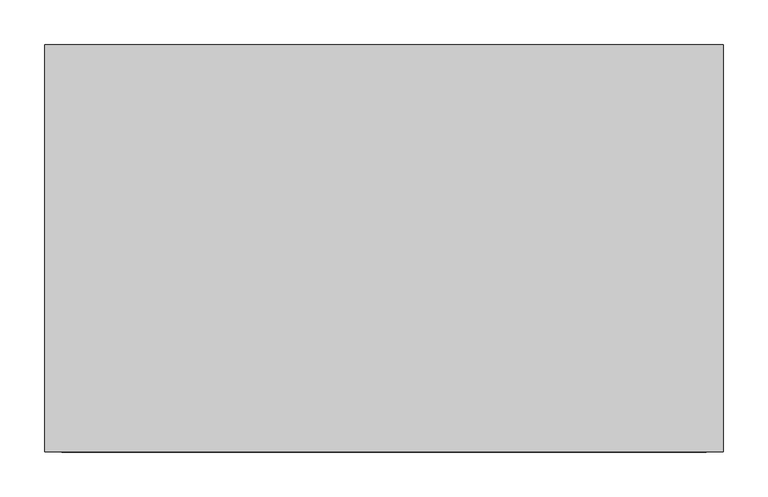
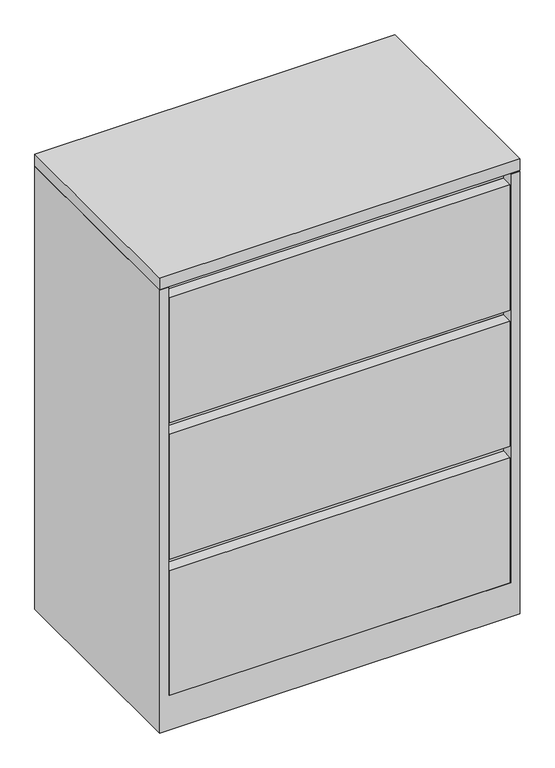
"""IFC4 building model written with IfcOpenShell, lengths in millimetres: furniture geometry, Steelcase - 900 Series - Storage - Lateral File With Drawer - 40H-52H - Flush Steel : 40H x 30W."""

from ifc_helpers import new_model, si_unit, frame, origin, place, context, project, spatial, polyline, outline, extrude, faceted_brep, source, transform, mapped, element, save


def furniture_9d3ceb2a(model_context):
    return source(origin(), model_context, "Body", "SolidModel", [
        extrude(outline(polyline([(762.0, 0.0), (762.0, -457.2), (0.0, -457.2), (0.0, 0.0), (762.0, 0.0)])), frame((0.0, 0.0, 990.5999516), z_axis=(0.0, 0.0, 1.0), x_axis=(1.0, 0.0, 0.0)), (0.0, 0.0, 1.0), 25.4),
        faceted_brep([(742.6960184, -25.2721219, 989.076), (742.6960184, -457.2, 989.076), (762.0, -457.2, 989.076), (762.0, 0.0, 989.076), (0.0, 0.0, 989.076), (0.0, -457.2, 989.076), (19.3039998, -457.2, 989.076), (19.3039998, -25.2721219, 989.076), (0.0, -457.2, 0.0), (0.0, 0.0, 0.0), (762.0, 0.0, 0.0), (762.0, -457.2, 0.0), (742.6960184, -25.2721219, 381.0), (742.6960184, -431.800255, 381.0), (742.6960184, -431.800255, 355.6), (742.6960184, -25.2721219, 355.6), (742.6960184, -25.2721219, 76.2), (742.6960184, -457.2, 76.2), (19.3039998, -457.2, 76.2), (19.3039998, -25.2721219, 76.2), (19.3039998, -25.2721219, 355.6), (19.3039998, -431.800255, 355.6), (19.3039998, -431.800255, 381.0), (19.3039998, -25.2721219, 381.0)], [[[0, 1, 2, 3, 4, 5, 6, 7]], [[8, 9, 10, 11]], [[1, 0, 12, 13, 14, 15, 16, 17]], [[2, 1, 17, 18, 6, 5, 8, 11]], [[3, 2, 11, 10]], [[4, 3, 10, 9]], [[5, 4, 9, 8]], [[7, 6, 18, 19, 20, 21, 22, 23]], [[0, 7, 23, 12]], [[16, 15, 20, 19]], [[18, 17, 16, 19]], [[22, 13, 12, 23]], [[13, 22, 21, 14]], [[14, 21, 20, 15]]]),
        extrude(outline(polyline([(742.6960184, -25.2721219), (742.6960184, -431.800255), (19.3039998, -431.800255), (19.3039998, -25.2721219), (742.6960184, -25.2721219)])), frame((0.0, 0.0, 660.4), z_axis=(0.0, 0.0, 1.0), x_axis=(1.0, 0.0, 0.0)), (0.0, 0.0, 1.0), 25.4),
        extrude(outline(polyline([(741.1722015, -457.2), (20.8289612, -457.2), (20.8289612, -431.800255), (741.1722015, -431.800255), (741.1722015, -457.2)])), frame((0.0, 0.0, 685.8), z_axis=(0.0, 0.0, 1.0), x_axis=(1.0, 0.0, 0.0)), (0.0, 0.0, 1.0), 279.4),
        extrude(outline(polyline([(742.6960184, -25.2721219), (742.6960184, -431.800255), (19.3039998, -431.800255), (19.3039998, -25.2721219), (742.6960184, -25.2721219)])), frame((0.0, 0.0, 965.2), z_axis=(0.0, 0.0, 1.0), x_axis=(1.0, 0.0, 0.0)), (0.0, 0.0, 1.0), 25.4),
        extrude(outline(polyline([(742.6960184, -25.2721219), (742.6960184, -431.800255), (20.8289612, -431.800255), (20.8289612, -25.2721219), (742.6960184, -25.2721219)])), frame((0.0, 0.0, 989.076), z_axis=(0.0, 0.0, 1.0), x_axis=(1.0, 0.0, 0.0)), (0.0, 0.0, 1.0), 1.5239516),
        extrude(outline(polyline([(741.1722015, -457.2), (20.8289612, -457.2), (20.8289612, -431.800255), (741.1722015, -431.800255), (741.1722015, -457.2)])), frame((0.0, 0.0, 76.2), z_axis=(0.0, 0.0, 1.0), x_axis=(1.0, 0.0, 0.0)), (0.0, 0.0, 1.0), 279.4),
        extrude(outline(polyline([(741.1722015, -457.2), (20.8289612, -457.2), (20.8289612, -431.800255), (741.1722015, -431.800255), (741.1722015, -457.2)])), frame((0.0, 0.0, 381.0), z_axis=(0.0, 0.0, 1.0), x_axis=(1.0, 0.0, 0.0)), (0.0, 0.0, 1.0), 279.4),
    ])


if __name__ == "__main__":
    model = new_model("IFC4")
    model_context = context("Model", 3, world=origin())
    ifc_project = project(units=[si_unit("LENGTHUNIT", "METRE", prefix="MILLI")], contexts=[model_context])
    site = spatial("IfcSite", under=ifc_project)
    building = spatial("IfcBuilding", under=site)
    placement = place(None, origin())
    furniture_shape = furniture_9d3ceb2a(model_context)
    element("IfcFurniture", 1, ObjectType="Steelcase - 900 Series - Storage - Lateral File With Drawer - 40H-52H - Flush Steel : 40H x 30W", at=placement, inside=building, context=model_context, shape_type="MappedRepresentation", body=[
        mapped(furniture_shape, transform((0.0, 0.0, 0.0), x_axis=(1.0, 0.0, 0.0), y_axis=(0.0, 1.0, 0.0), z_axis=(0.0, 0.0, 1.0))),
    ])
    save(model, "model.ifc")
